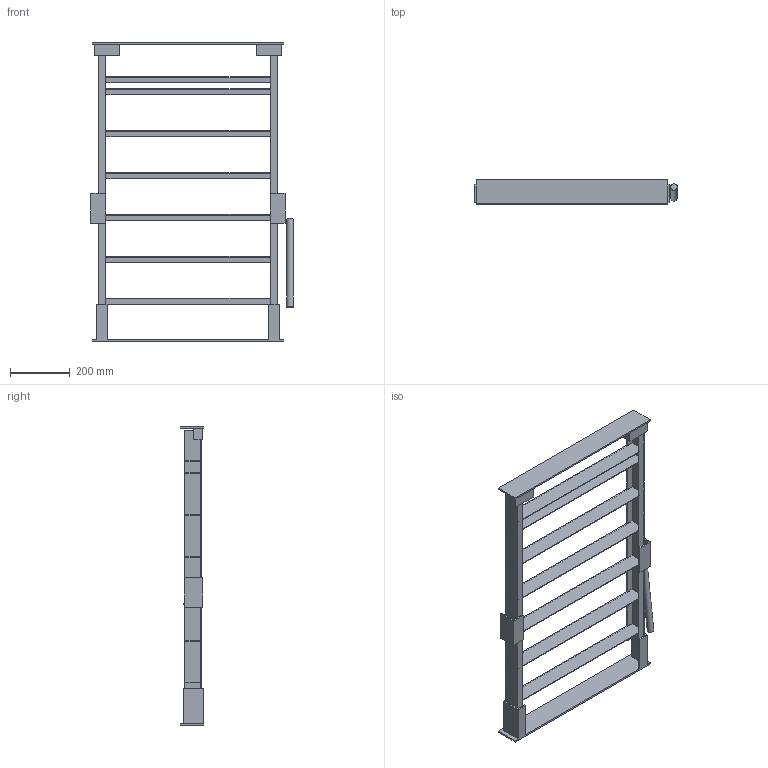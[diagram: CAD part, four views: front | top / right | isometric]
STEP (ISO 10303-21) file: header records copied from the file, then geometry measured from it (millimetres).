
FILE_DESCRIPTION((''),'2;1');
FILE_NAME('51981533','2022-09-29T14:43:01',('hrl'),('HUBER SE'),'CREO PARAMETRIC BY PTC INC, 2021184','CREO PARAMETRIC BY PTC INC, 2021184','');
FILE_SCHEMA(('AUTOMOTIVE_DESIGN { 1 0 10303 214 1 1 1 1 }'));
Length unit declared in the file: millimetre
Products named in the file (1): 51981533
Bounding box: 677.5 x 80 x 1000 mm (x, y, z)
Volume: 2121209.6 mm3; surface area: 1347332.2 mm2
Topology: 4 solids, 4 shells, 166 faces, 500 edges, 332 vertices
Faces by surface type: plane 164, cylinder 2
Entity records: 6015 total; most frequent: CARTESIAN_POINT 1000, ORIENTED_EDGE 1000, DIRECTION 836, EDGE_CURVE 500, VECTOR 496, LINE 496, VERTEX_POINT 332, AXIS2_PLACEMENT_3D 170
